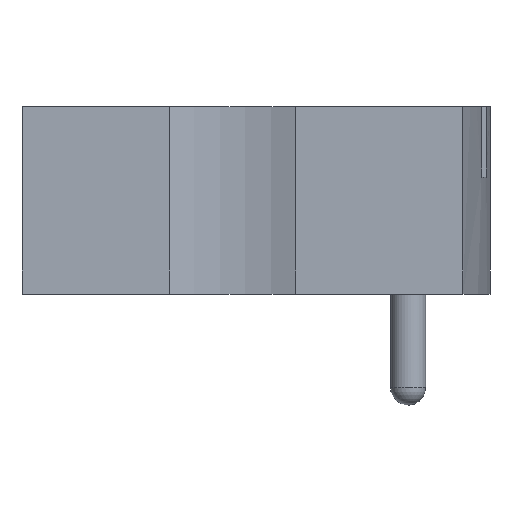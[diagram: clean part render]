
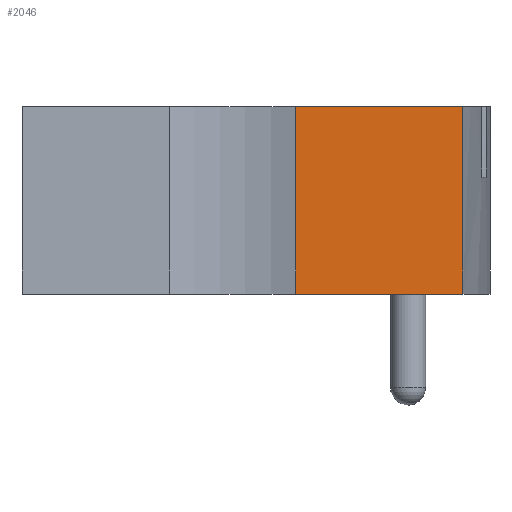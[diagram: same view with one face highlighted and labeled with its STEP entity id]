
A CAD part, front view. The second image highlights one B-rep face of the part: STEP entity #2046.
In plain terms, the highlighted planar face has unit normal (0, -1, 0).
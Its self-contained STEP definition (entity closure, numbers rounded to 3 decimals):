
#97 = PLANE('',#98);
#98 = AXIS2_PLACEMENT_3D('',#99,#100,#101);
#99 = CARTESIAN_POINT('',(0.,-8.25,8.));
#100 = DIRECTION('',(0.,0.,1.));
#101 = DIRECTION('',(1.,0.,0.));
#204 = VERTEX_POINT('',#205);
#205 = CARTESIAN_POINT('',(11.693,-8.25,8.));
#224 = CYLINDRICAL_SURFACE('',#225,7.5);
#225 = AXIS2_PLACEMENT_3D('',#226,#227,#228);
#226 = CARTESIAN_POINT('',(9.,-15.25,-0.5));
#227 = DIRECTION('',(-0.,-0.,-1.));
#228 = DIRECTION('',(1.,0.,0.));
#236 = EDGE_CURVE('',#204,#237,#239,.T.);
#237 = VERTEX_POINT('',#238);
#238 = CARTESIAN_POINT('',(18.843,-8.25,8.));
#239 = SURFACE_CURVE('',#240,(#244,#251),.PCURVE_S1.);
#240 = LINE('',#241,#242);
#241 = CARTESIAN_POINT('',(0.,-8.25,8.));
#242 = VECTOR('',#243,1.);
#243 = DIRECTION('',(1.,0.,0.));
#244 = PCURVE('',#97,#245);
#245 = DEFINITIONAL_REPRESENTATION('',(#246),#250);
#246 = LINE('',#247,#248);
#247 = CARTESIAN_POINT('',(0.,0.));
#248 = VECTOR('',#249,1.);
#249 = DIRECTION('',(1.,0.));
#250 = ( GEOMETRIC_REPRESENTATION_CONTEXT(2) 
PARAMETRIC_REPRESENTATION_CONTEXT() REPRESENTATION_CONTEXT('2D SPACE',''
  ) );
#251 = PCURVE('',#252,#257);
#252 = PLANE('',#253);
#253 = AXIS2_PLACEMENT_3D('',#254,#255,#256);
#254 = CARTESIAN_POINT('',(0.,-8.25,0.));
#255 = DIRECTION('',(0.,1.,0.));
#256 = DIRECTION('',(0.,0.,1.));
#257 = DEFINITIONAL_REPRESENTATION('',(#258),#262);
#258 = LINE('',#259,#260);
#259 = CARTESIAN_POINT('',(8.,0.));
#260 = VECTOR('',#261,1.);
#261 = DIRECTION('',(0.,1.));
#262 = ( GEOMETRIC_REPRESENTATION_CONTEXT(2) 
PARAMETRIC_REPRESENTATION_CONTEXT() REPRESENTATION_CONTEXT('2D SPACE',''
  ) );
#285 = CYLINDRICAL_SURFACE('',#286,30.);
#286 = AXIS2_PLACEMENT_3D('',#287,#288,#289);
#287 = CARTESIAN_POINT('',(-10.,0.,-0.1));
#288 = DIRECTION('',(-0.,-0.,-1.));
#289 = DIRECTION('',(1.,0.,0.));
#899 = PLANE('',#900);
#900 = AXIS2_PLACEMENT_3D('',#901,#902,#903);
#901 = CARTESIAN_POINT('',(0.,-8.25,0.));
#902 = DIRECTION('',(0.,0.,1.));
#903 = DIRECTION('',(1.,0.,0.));
#1555 = VERTEX_POINT('',#1556);
#1556 = CARTESIAN_POINT('',(18.843,-8.25,0.));
#1582 = EDGE_CURVE('',#237,#1555,#1583,.T.);
#1583 = SURFACE_CURVE('',#1584,(#1588,#1594),.PCURVE_S1.);
#1584 = LINE('',#1585,#1586);
#1585 = CARTESIAN_POINT('',(18.843,-8.25,-0.1));
#1586 = VECTOR('',#1587,1.);
#1587 = DIRECTION('',(-0.,-0.,-1.));
#1588 = PCURVE('',#285,#1589);
#1589 = DEFINITIONAL_REPRESENTATION('',(#1590),#1593);
#1590 = B_SPLINE_CURVE_WITH_KNOTS('',1,(#1591,#1592),.UNSPECIFIED.,.F.,
  .F.,(2,2),(-8.2,0.),.PIECEWISE_BEZIER_KNOTS.);
#1591 = CARTESIAN_POINT('',(-6.005,-8.2));
#1592 = CARTESIAN_POINT('',(-6.005,0.));
#1593 = ( GEOMETRIC_REPRESENTATION_CONTEXT(2) 
PARAMETRIC_REPRESENTATION_CONTEXT() REPRESENTATION_CONTEXT('2D SPACE',''
  ) );
#1594 = PCURVE('',#252,#1595);
#1595 = DEFINITIONAL_REPRESENTATION('',(#1596),#1599);
#1596 = B_SPLINE_CURVE_WITH_KNOTS('',1,(#1597,#1598),.UNSPECIFIED.,.F.,
  .F.,(2,2),(-8.2,0.),.PIECEWISE_BEZIER_KNOTS.);
#1597 = CARTESIAN_POINT('',(8.1,18.843));
#1598 = CARTESIAN_POINT('',(-0.1,18.843));
#1599 = ( GEOMETRIC_REPRESENTATION_CONTEXT(2) 
PARAMETRIC_REPRESENTATION_CONTEXT() REPRESENTATION_CONTEXT('2D SPACE',''
  ) );
#2046 = ADVANCED_FACE('',(#2047),#252,.F.);
#2047 = FACE_BOUND('',#2048,.F.);
#2048 = EDGE_LOOP('',(#2049,#2072,#2091,#2092));
#2049 = ORIENTED_EDGE('',*,*,#2050,.F.);
#2050 = EDGE_CURVE('',#2051,#1555,#2053,.T.);
#2051 = VERTEX_POINT('',#2052);
#2052 = CARTESIAN_POINT('',(11.693,-8.25,0.));
#2053 = SURFACE_CURVE('',#2054,(#2058,#2065),.PCURVE_S1.);
#2054 = LINE('',#2055,#2056);
#2055 = CARTESIAN_POINT('',(0.,-8.25,0.));
#2056 = VECTOR('',#2057,1.);
#2057 = DIRECTION('',(1.,0.,0.));
#2058 = PCURVE('',#252,#2059);
#2059 = DEFINITIONAL_REPRESENTATION('',(#2060),#2064);
#2060 = LINE('',#2061,#2062);
#2061 = CARTESIAN_POINT('',(0.,0.));
#2062 = VECTOR('',#2063,1.);
#2063 = DIRECTION('',(0.,1.));
#2064 = ( GEOMETRIC_REPRESENTATION_CONTEXT(2) 
PARAMETRIC_REPRESENTATION_CONTEXT() REPRESENTATION_CONTEXT('2D SPACE',''
  ) );
#2065 = PCURVE('',#899,#2066);
#2066 = DEFINITIONAL_REPRESENTATION('',(#2067),#2071);
#2067 = LINE('',#2068,#2069);
#2068 = CARTESIAN_POINT('',(0.,0.));
#2069 = VECTOR('',#2070,1.);
#2070 = DIRECTION('',(1.,0.));
#2071 = ( GEOMETRIC_REPRESENTATION_CONTEXT(2) 
PARAMETRIC_REPRESENTATION_CONTEXT() REPRESENTATION_CONTEXT('2D SPACE',''
  ) );
#2072 = ORIENTED_EDGE('',*,*,#2073,.F.);
#2073 = EDGE_CURVE('',#204,#2051,#2074,.T.);
#2074 = SURFACE_CURVE('',#2075,(#2079,#2085),.PCURVE_S1.);
#2075 = LINE('',#2076,#2077);
#2076 = CARTESIAN_POINT('',(11.693,-8.25,-0.5));
#2077 = VECTOR('',#2078,1.);
#2078 = DIRECTION('',(-0.,-0.,-1.));
#2079 = PCURVE('',#252,#2080);
#2080 = DEFINITIONAL_REPRESENTATION('',(#2081),#2084);
#2081 = B_SPLINE_CURVE_WITH_KNOTS('',1,(#2082,#2083),.UNSPECIFIED.,.F.,
  .F.,(2,2),(-9.,0.),.PIECEWISE_BEZIER_KNOTS.);
#2082 = CARTESIAN_POINT('',(8.5,11.693));
#2083 = CARTESIAN_POINT('',(-0.5,11.693));
#2084 = ( GEOMETRIC_REPRESENTATION_CONTEXT(2) 
PARAMETRIC_REPRESENTATION_CONTEXT() REPRESENTATION_CONTEXT('2D SPACE',''
  ) );
#2085 = PCURVE('',#224,#2086);
#2086 = DEFINITIONAL_REPRESENTATION('',(#2087),#2090);
#2087 = B_SPLINE_CURVE_WITH_KNOTS('',1,(#2088,#2089),.UNSPECIFIED.,.F.,
  .F.,(2,2),(-9.,0.),.PIECEWISE_BEZIER_KNOTS.);
#2088 = CARTESIAN_POINT('',(-1.204,-9.));
#2089 = CARTESIAN_POINT('',(-1.204,0.));
#2090 = ( GEOMETRIC_REPRESENTATION_CONTEXT(2) 
PARAMETRIC_REPRESENTATION_CONTEXT() REPRESENTATION_CONTEXT('2D SPACE',''
  ) );
#2091 = ORIENTED_EDGE('',*,*,#236,.T.);
#2092 = ORIENTED_EDGE('',*,*,#1582,.T.);
